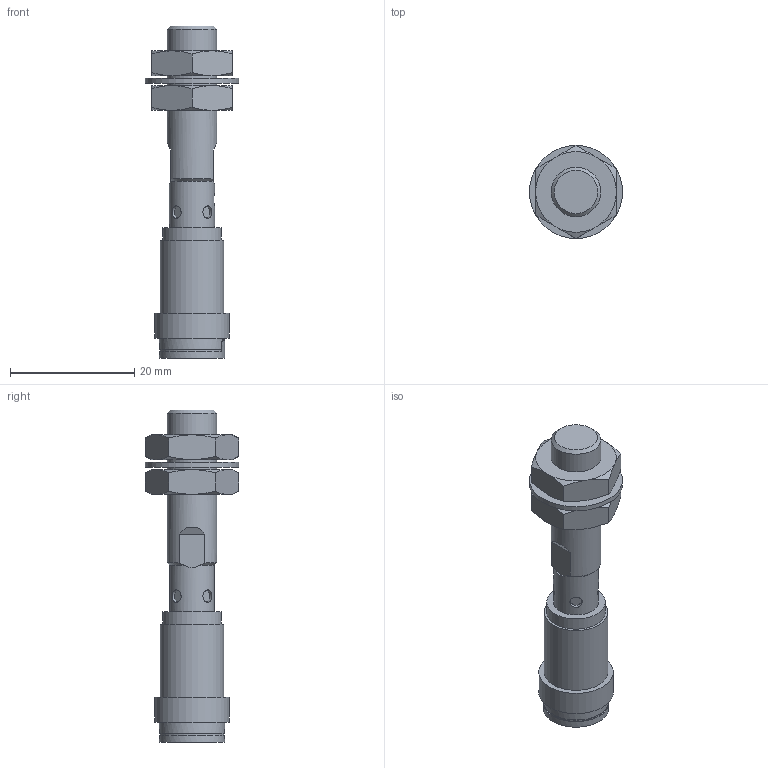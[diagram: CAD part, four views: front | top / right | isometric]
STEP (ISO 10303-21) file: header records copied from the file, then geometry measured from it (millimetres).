
FILE_DESCRIPTION((''),'2;1');
FILE_NAME('C:\TurckZip\Bi-EG08F-X-H1.stp','2010-04-08T13:38:02',('IKOROL'),(''),'Autodesk Inventor 2009','Autodesk Inventor 2009','');
FILE_SCHEMA(('CONFIG_CONTROL_DESIGN'));
Length unit declared in the file: millimetre
Products named in the file (1): Part35
Bounding box: 15 x 15.01 x 53.5 mm (x, y, z)
Volume: 3942.3 mm3; surface area: 2755.6 mm2
Topology: 1 solids, 1 shells, 113 faces, 289 edges, 193 vertices
Faces by surface type: plane 53, cylinder 29, cone 27, sphere 4
Full cylindrical faces by diameter (mm): 0.5 x4, 2 x6, 7.26 x1, 8 x5, 9.5 x1, 10.3 x1, 10.5 x2, 12 x1, 15 x1
Entity records: 3494 total; most frequent: CARTESIAN_POINT 1025, ORIENTED_EDGE 500, DIRECTION 490, EDGE_CURVE 250, AXIS2_PLACEMENT_3D 204, VERTEX_POINT 182, EDGE_LOOP 158, FACE_OUTER_BOUND 113
